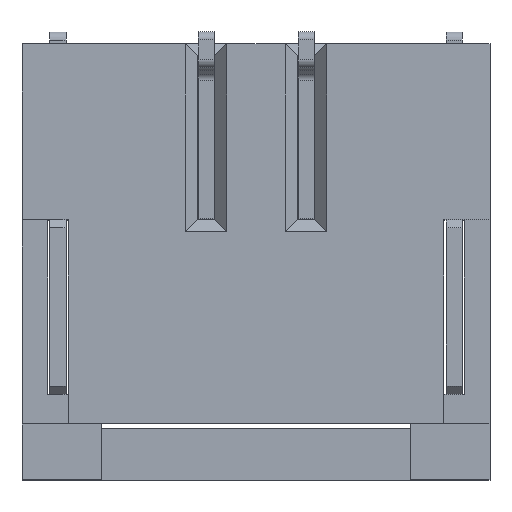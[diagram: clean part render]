
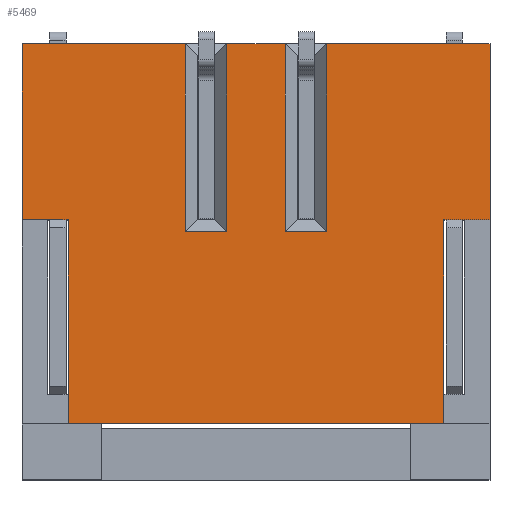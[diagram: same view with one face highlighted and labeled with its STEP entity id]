
A CAD part, top view. The second image highlights one B-rep face of the part: STEP entity #5469.
In plain terms, the highlighted planar face has unit normal (0, 0, 1).
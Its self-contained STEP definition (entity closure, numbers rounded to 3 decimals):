
#2601=CARTESIAN_POINT('Line Origine',(0.365,4.275,4.4)) ;
#2605=CARTESIAN_POINT('Vertex',(0.365,5.45,4.4)) ;
#2607=CARTESIAN_POINT('Vertex',(0.365,3.1,4.4)) ;
#2883=CARTESIAN_POINT('Vertex',(0.885,3.1,4.4)) ;
#2886=CARTESIAN_POINT('Line Origine',(0.625,3.1,4.4)) ;
#2907=CARTESIAN_POINT('Vertex',(0.885,5.45,4.4)) ;
#2917=CARTESIAN_POINT('Line Origine',(0.885,4.275,4.4)) ;
#3404=CARTESIAN_POINT('Line Origine',(2.36,3.25,4.4)) ;
#3408=CARTESIAN_POINT('Vertex',(2.375,3.25,4.4)) ;
#3410=CARTESIAN_POINT('Vertex',(2.345,3.25,4.4)) ;
#3483=CARTESIAN_POINT('Vertex',(2.345,0.7,4.4)) ;
#3486=CARTESIAN_POINT('Line Origine',(0.,0.7,4.4)) ;
#3490=CARTESIAN_POINT('Vertex',(-2.345,0.7,4.4)) ;
#3730=CARTESIAN_POINT('Line Origine',(-2.925,4.35,4.4)) ;
#3734=CARTESIAN_POINT('Vertex',(-2.925,5.45,4.4)) ;
#3736=CARTESIAN_POINT('Vertex',(-2.925,3.25,4.4)) ;
#3855=CARTESIAN_POINT('Vertex',(2.925,3.25,4.4)) ;
#3879=CARTESIAN_POINT('Vertex',(2.925,5.45,4.4)) ;
#3882=CARTESIAN_POINT('Line Origine',(2.925,4.35,4.4)) ;
#3988=CARTESIAN_POINT('Vertex',(-2.345,3.25,4.4)) ;
#3991=CARTESIAN_POINT('Line Origine',(-2.36,3.25,4.4)) ;
#3995=CARTESIAN_POINT('Vertex',(-2.375,3.25,4.4)) ;
#4215=CARTESIAN_POINT('Line Origine',(2.75,3.25,4.4)) ;
#4219=CARTESIAN_POINT('Vertex',(2.575,3.25,4.4)) ;
#4236=CARTESIAN_POINT('Line Origine',(2.475,3.25,4.4)) ;
#4267=CARTESIAN_POINT('Line Origine',(-2.475,3.25,4.4)) ;
#4271=CARTESIAN_POINT('Vertex',(-2.575,3.25,4.4)) ;
#4300=CARTESIAN_POINT('Line Origine',(-2.75,3.25,4.4)) ;
#5394=CARTESIAN_POINT('Axis2P3D Location',(0.,0.7,4.4)) ;
#5399=CARTESIAN_POINT('Line Origine',(-1.905,5.45,4.4)) ;
#5403=CARTESIAN_POINT('Vertex',(-0.885,5.45,4.4)) ;
#5406=CARTESIAN_POINT('Line Origine',(-2.345,1.975,4.4)) ;
#5411=CARTESIAN_POINT('Line Origine',(2.345,1.975,4.4)) ;
#5416=CARTESIAN_POINT('Line Origine',(1.905,5.45,4.4)) ;
#5421=CARTESIAN_POINT('Line Origine',(0.,5.45,4.4)) ;
#5425=CARTESIAN_POINT('Vertex',(-0.365,5.45,4.4)) ;
#5428=CARTESIAN_POINT('Line Origine',(-0.365,4.275,4.4)) ;
#5432=CARTESIAN_POINT('Vertex',(-0.365,3.1,4.4)) ;
#5435=CARTESIAN_POINT('Line Origine',(-0.625,3.1,4.4)) ;
#5439=CARTESIAN_POINT('Vertex',(-0.885,3.1,4.4)) ;
#5442=CARTESIAN_POINT('Line Origine',(-0.885,4.275,4.4)) ;
#2602=DIRECTION('Vector Direction',(0.,-1.,0.)) ;
#2887=DIRECTION('Vector Direction',(-1.,0.,0.)) ;
#2918=DIRECTION('Vector Direction',(0.,-1.,0.)) ;
#3405=DIRECTION('Vector Direction',(-1.,0.,0.)) ;
#3487=DIRECTION('Vector Direction',(1.,0.,0.)) ;
#3731=DIRECTION('Vector Direction',(0.,1.,0.)) ;
#3883=DIRECTION('Vector Direction',(0.,1.,0.)) ;
#3992=DIRECTION('Vector Direction',(1.,0.,0.)) ;
#4216=DIRECTION('Vector Direction',(-1.,0.,0.)) ;
#4237=DIRECTION('Vector Direction',(-1.,0.,0.)) ;
#4268=DIRECTION('Vector Direction',(1.,0.,0.)) ;
#4301=DIRECTION('Vector Direction',(1.,0.,0.)) ;
#5395=DIRECTION('Axis2P3D Direction',(0.,0.,-1.)) ;
#5396=DIRECTION('Axis2P3D XDirection',(0.,1.,0.)) ;
#5400=DIRECTION('Vector Direction',(1.,0.,0.)) ;
#5407=DIRECTION('Vector Direction',(0.,1.,0.)) ;
#5412=DIRECTION('Vector Direction',(0.,1.,0.)) ;
#5417=DIRECTION('Vector Direction',(1.,0.,0.)) ;
#5422=DIRECTION('Vector Direction',(1.,0.,0.)) ;
#5429=DIRECTION('Vector Direction',(0.,-1.,0.)) ;
#5436=DIRECTION('Vector Direction',(-1.,0.,0.)) ;
#5443=DIRECTION('Vector Direction',(0.,-1.,0.)) ;
#5397=AXIS2_PLACEMENT_3D('Plane Axis2P3D',#5394,#5395,#5396) ;
#5448=ORIENTED_EDGE('',*,*,#5405,.F.) ;
#5449=ORIENTED_EDGE('',*,*,#3738,.T.) ;
#5450=ORIENTED_EDGE('',*,*,#4304,.T.) ;
#5451=ORIENTED_EDGE('',*,*,#4273,.T.) ;
#5452=ORIENTED_EDGE('',*,*,#3997,.T.) ;
#5453=ORIENTED_EDGE('',*,*,#5410,.T.) ;
#5454=ORIENTED_EDGE('',*,*,#3492,.T.) ;
#5455=ORIENTED_EDGE('',*,*,#5415,.F.) ;
#5456=ORIENTED_EDGE('',*,*,#3412,.F.) ;
#5457=ORIENTED_EDGE('',*,*,#4240,.F.) ;
#5458=ORIENTED_EDGE('',*,*,#4221,.F.) ;
#5459=ORIENTED_EDGE('',*,*,#3886,.F.) ;
#5460=ORIENTED_EDGE('',*,*,#5420,.F.) ;
#5461=ORIENTED_EDGE('',*,*,#2921,.T.) ;
#5462=ORIENTED_EDGE('',*,*,#2890,.F.) ;
#5463=ORIENTED_EDGE('',*,*,#2609,.F.) ;
#5464=ORIENTED_EDGE('',*,*,#5427,.F.) ;
#5465=ORIENTED_EDGE('',*,*,#5434,.T.) ;
#5466=ORIENTED_EDGE('',*,*,#5441,.F.) ;
#5467=ORIENTED_EDGE('',*,*,#5446,.F.) ;
#2603=VECTOR('Line Direction',#2602,1.) ;
#2888=VECTOR('Line Direction',#2887,1.) ;
#2919=VECTOR('Line Direction',#2918,1.) ;
#3406=VECTOR('Line Direction',#3405,1.) ;
#3488=VECTOR('Line Direction',#3487,1.) ;
#3732=VECTOR('Line Direction',#3731,1.) ;
#3884=VECTOR('Line Direction',#3883,1.) ;
#3993=VECTOR('Line Direction',#3992,1.) ;
#4217=VECTOR('Line Direction',#4216,1.) ;
#4238=VECTOR('Line Direction',#4237,1.) ;
#4269=VECTOR('Line Direction',#4268,1.) ;
#4302=VECTOR('Line Direction',#4301,1.) ;
#5401=VECTOR('Line Direction',#5400,1.) ;
#5408=VECTOR('Line Direction',#5407,1.) ;
#5413=VECTOR('Line Direction',#5412,1.) ;
#5418=VECTOR('Line Direction',#5417,1.) ;
#5423=VECTOR('Line Direction',#5422,1.) ;
#5430=VECTOR('Line Direction',#5429,1.) ;
#5437=VECTOR('Line Direction',#5436,1.) ;
#5444=VECTOR('Line Direction',#5443,1.) ;
#5469=ADVANCED_FACE('\X2\96F64EF651E04F554F53\X0\',(#5468),#5398,.F.) ;
#2609=EDGE_CURVE('',#2606,#2608,#2604,.T.) ;
#2890=EDGE_CURVE('',#2608,#2884,#2889,.F.) ;
#2921=EDGE_CURVE('',#2908,#2884,#2920,.T.) ;
#3412=EDGE_CURVE('',#3409,#3411,#3407,.T.) ;
#3492=EDGE_CURVE('',#3491,#3484,#3489,.T.) ;
#3738=EDGE_CURVE('',#3735,#3737,#3733,.F.) ;
#3886=EDGE_CURVE('',#3880,#3856,#3885,.F.) ;
#3997=EDGE_CURVE('',#3996,#3989,#3994,.T.) ;
#4221=EDGE_CURVE('',#3856,#4220,#4218,.T.) ;
#4240=EDGE_CURVE('',#4220,#3409,#4239,.T.) ;
#4273=EDGE_CURVE('',#4272,#3996,#4270,.T.) ;
#4304=EDGE_CURVE('',#3737,#4272,#4303,.T.) ;
#5405=EDGE_CURVE('',#3735,#5404,#5402,.T.) ;
#5410=EDGE_CURVE('',#3989,#3491,#5409,.F.) ;
#5415=EDGE_CURVE('',#3411,#3484,#5414,.F.) ;
#5420=EDGE_CURVE('',#2908,#3880,#5419,.T.) ;
#5427=EDGE_CURVE('',#5426,#2606,#5424,.T.) ;
#5434=EDGE_CURVE('',#5426,#5433,#5431,.T.) ;
#5441=EDGE_CURVE('',#5440,#5433,#5438,.F.) ;
#5446=EDGE_CURVE('',#5404,#5440,#5445,.T.) ;
#5447=EDGE_LOOP('',(#5448,#5449,#5450,#5451,#5452,#5453,#5454,#5455,#5456,#5457,#5458,#5459,#5460,#5461,#5462,#5463,#5464,#5465,#5466,#5467)) ;
#5468=FACE_OUTER_BOUND('',#5447,.T.) ;
#2604=LINE('Line',#2601,#2603) ;
#2889=LINE('Line',#2886,#2888) ;
#2920=LINE('Line',#2917,#2919) ;
#3407=LINE('Line',#3404,#3406) ;
#3489=LINE('Line',#3486,#3488) ;
#3733=LINE('Line',#3730,#3732) ;
#3885=LINE('Line',#3882,#3884) ;
#3994=LINE('Line',#3991,#3993) ;
#4218=LINE('Line',#4215,#4217) ;
#4239=LINE('Line',#4236,#4238) ;
#4270=LINE('Line',#4267,#4269) ;
#4303=LINE('Line',#4300,#4302) ;
#5402=LINE('Line',#5399,#5401) ;
#5409=LINE('Line',#5406,#5408) ;
#5414=LINE('Line',#5411,#5413) ;
#5419=LINE('Line',#5416,#5418) ;
#5424=LINE('Line',#5421,#5423) ;
#5431=LINE('Line',#5428,#5430) ;
#5438=LINE('Line',#5435,#5437) ;
#5445=LINE('Line',#5442,#5444) ;
#5398=PLANE('Plane',#5397) ;
#2606=VERTEX_POINT('',#2605) ;
#2608=VERTEX_POINT('',#2607) ;
#2884=VERTEX_POINT('',#2883) ;
#2908=VERTEX_POINT('',#2907) ;
#3409=VERTEX_POINT('',#3408) ;
#3411=VERTEX_POINT('',#3410) ;
#3484=VERTEX_POINT('',#3483) ;
#3491=VERTEX_POINT('',#3490) ;
#3735=VERTEX_POINT('',#3734) ;
#3737=VERTEX_POINT('',#3736) ;
#3856=VERTEX_POINT('',#3855) ;
#3880=VERTEX_POINT('',#3879) ;
#3989=VERTEX_POINT('',#3988) ;
#3996=VERTEX_POINT('',#3995) ;
#4220=VERTEX_POINT('',#4219) ;
#4272=VERTEX_POINT('',#4271) ;
#5404=VERTEX_POINT('',#5403) ;
#5426=VERTEX_POINT('',#5425) ;
#5433=VERTEX_POINT('',#5432) ;
#5440=VERTEX_POINT('',#5439) ;
